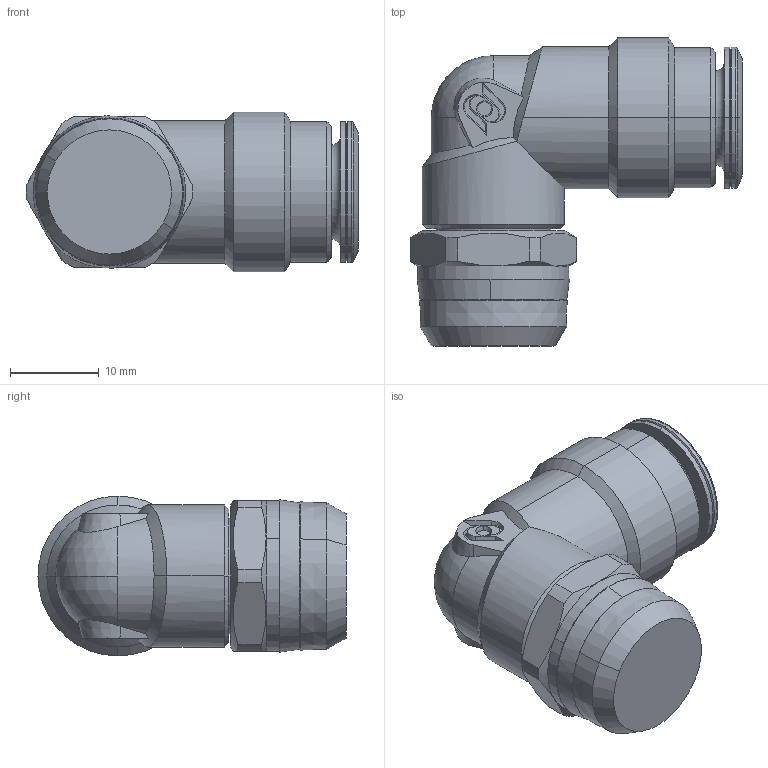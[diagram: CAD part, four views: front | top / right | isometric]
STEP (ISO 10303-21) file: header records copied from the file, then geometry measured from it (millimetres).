
FILE_DESCRIPTION (( 'STEP AP214' ), '1' );
FILE_NAME ('84111H0013.STEP', '2019-12-11T09:29:09', ( '' ), ( '' ), 'SwSTEP 2.0', 'SolidWorks 2016', '' );
FILE_SCHEMA (( 'AUTOMOTIVE_DESIGN' ));
Length unit declared in the file: millimetre
Products named in the file (1): 84111H0013
Bounding box: 37.4 x 34.7 x 18 mm (x, y, z)
Volume: 10497.9 mm3; surface area: 3585.8 mm2
Topology: 1 solids, 3 shells, 131 faces, 313 edges, 201 vertices
Faces by surface type: cone 46, plane 45, cylinder 28, torus 6, bspline 4, sphere 2
Entity records: 5767 total; most frequent: CARTESIAN_POINT 1396, ORIENTED_EDGE 626, DIRECTION 604, EDGE_CURVE 313, AXIS2_PLACEMENT_3D 247, VERTEX_POINT 201, EDGE_LOOP 144, ADVANCED_FACE 131
